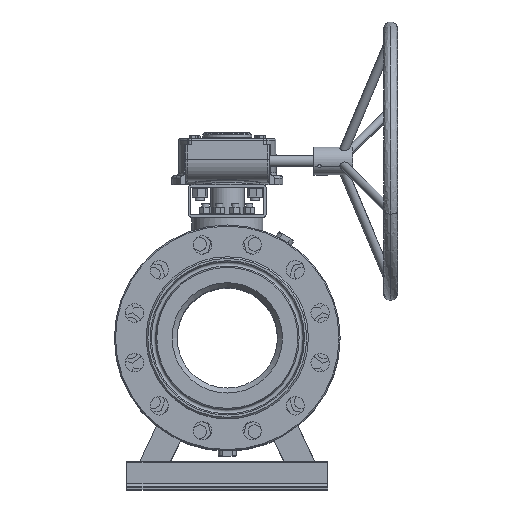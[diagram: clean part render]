
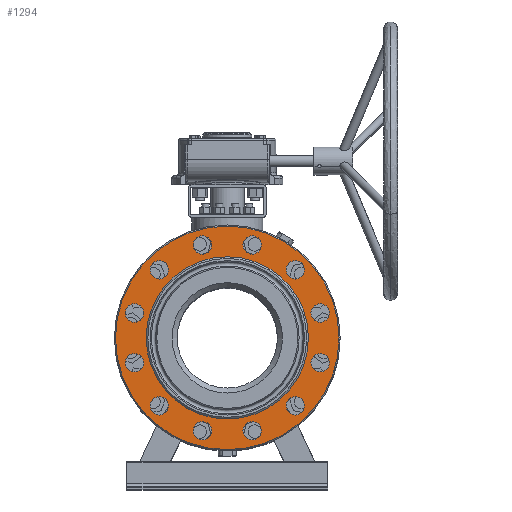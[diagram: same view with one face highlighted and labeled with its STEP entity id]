
A CAD part, top view. The second image highlights one B-rep face of the part: STEP entity #1294.
In plain terms, the highlighted planar face has unit normal (0, 0, 1).
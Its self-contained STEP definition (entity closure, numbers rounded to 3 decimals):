
#1294=ADVANCED_FACE('',(#13195,#13197,#13199,#13201,#13203,#13205,#13207,#13209,
#13211,#13213,#13215,#13217,#13219,#13221),#13223,.T.);
#13195=FACE_BOUND('',#13196,.T.);
#13196=EDGE_LOOP('',(#20094));
#13197=FACE_BOUND('',#13198,.T.);
#13198=EDGE_LOOP('',(#20095));
#13199=FACE_BOUND('',#13200,.T.);
#13200=EDGE_LOOP('',(#20096));
#13201=FACE_BOUND('',#13202,.T.);
#13202=EDGE_LOOP('',(#20097));
#13203=FACE_BOUND('',#13204,.T.);
#13204=EDGE_LOOP('',(#20098));
#13205=FACE_BOUND('',#13206,.T.);
#13206=EDGE_LOOP('',(#20099));
#13207=FACE_BOUND('',#13208,.T.);
#13208=EDGE_LOOP('',(#20100));
#13209=FACE_BOUND('',#13210,.T.);
#13210=EDGE_LOOP('',(#20101));
#13211=FACE_BOUND('',#13212,.T.);
#13212=EDGE_LOOP('',(#20102));
#13213=FACE_BOUND('',#13214,.T.);
#13214=EDGE_LOOP('',(#20103));
#13215=FACE_BOUND('',#13216,.T.);
#13216=EDGE_LOOP('',(#20104));
#13217=FACE_BOUND('',#13218,.T.);
#13218=EDGE_LOOP('',(#20105));
#13219=FACE_BOUND('',#13220,.T.);
#13220=EDGE_LOOP('',(#20106));
#13221=FACE_OUTER_BOUND('',#13222,.T.);
#13222=EDGE_LOOP('',(#20107));
#13223=PLANE('',#13224);
#13224=AXIS2_PLACEMENT_3D('',#13225,#13226,#13227);
#13225=CARTESIAN_POINT('',(0.,0.,296.));
#13226=DIRECTION('',(-0.,-0.,1.));
#13227=DIRECTION('',(0.,-1.,0.));
#20094=ORIENTED_EDGE('',*,*,#29461,.T.);
#20095=ORIENTED_EDGE('',*,*,#29451,.T.);
#20096=ORIENTED_EDGE('',*,*,#29449,.T.);
#20097=ORIENTED_EDGE('',*,*,#29447,.T.);
#20098=ORIENTED_EDGE('',*,*,#29445,.T.);
#20099=ORIENTED_EDGE('',*,*,#29443,.T.);
#20100=ORIENTED_EDGE('',*,*,#29441,.T.);
#20101=ORIENTED_EDGE('',*,*,#29439,.T.);
#20102=ORIENTED_EDGE('',*,*,#29437,.T.);
#20103=ORIENTED_EDGE('',*,*,#29435,.T.);
#20104=ORIENTED_EDGE('',*,*,#29433,.T.);
#20105=ORIENTED_EDGE('',*,*,#29431,.T.);
#20106=ORIENTED_EDGE('',*,*,#29429,.T.);
#20107=ORIENTED_EDGE('',*,*,#29462,.F.);
#29429=EDGE_CURVE('',#38147,#38147,#38149,.F.);
#29431=EDGE_CURVE('',#38150,#38150,#38152,.F.);
#29433=EDGE_CURVE('',#38153,#38153,#38155,.F.);
#29435=EDGE_CURVE('',#38156,#38156,#38158,.F.);
#29437=EDGE_CURVE('',#38159,#38159,#38161,.F.);
#29439=EDGE_CURVE('',#38162,#38162,#38164,.F.);
#29441=EDGE_CURVE('',#38165,#38165,#38167,.F.);
#29443=EDGE_CURVE('',#38168,#38168,#38170,.F.);
#29445=EDGE_CURVE('',#38171,#38171,#38173,.F.);
#29447=EDGE_CURVE('',#38174,#38174,#38176,.F.);
#29449=EDGE_CURVE('',#38177,#38177,#38179,.F.);
#29451=EDGE_CURVE('',#38180,#38180,#38182,.F.);
#29461=EDGE_CURVE('',#38198,#38198,#38199,.T.);
#29462=EDGE_CURVE('',#38200,#38200,#38201,.T.);
#38147=VERTEX_POINT('',#62532);
#38149=CIRCLE('',#62536,16.5);
#38150=VERTEX_POINT('',#62540);
#38152=CIRCLE('',#62544,16.5);
#38153=VERTEX_POINT('',#62548);
#38155=CIRCLE('',#62552,16.5);
#38156=VERTEX_POINT('',#62556);
#38158=CIRCLE('',#62560,16.5);
#38159=VERTEX_POINT('',#62564);
#38161=CIRCLE('',#62568,16.5);
#38162=VERTEX_POINT('',#62572);
#38164=CIRCLE('',#62576,16.5);
#38165=VERTEX_POINT('',#62580);
#38167=CIRCLE('',#62584,16.5);
#38168=VERTEX_POINT('',#62588);
#38170=CIRCLE('',#62592,16.5);
#38171=VERTEX_POINT('',#62596);
#38173=CIRCLE('',#62600,16.5);
#38174=VERTEX_POINT('',#62604);
#38176=CIRCLE('',#62608,16.5);
#38177=VERTEX_POINT('',#62612);
#38179=CIRCLE('',#62616,16.5);
#38180=VERTEX_POINT('',#62620);
#38182=CIRCLE('',#62624,16.5);
#38198=VERTEX_POINT('',#62743);
#38199=CIRCLE('',#62744,145.5);
#38200=VERTEX_POINT('',#62748);
#38201=CIRCLE('',#62749,200.5);
#62532=CARTESIAN_POINT('',(-113.726,136.265,296.));
#62536=AXIS2_PLACEMENT_3D('',#62537,#62538,#62539);
#62537=CARTESIAN_POINT('',(-121.976,121.976,296.));
#62538=DIRECTION('',(-0.,-0.,1.));
#62539=DIRECTION('',(0.5,0.866,0.));
#62540=CARTESIAN_POINT('',(-136.265,-113.726,296.));
#62544=AXIS2_PLACEMENT_3D('',#62545,#62546,#62547);
#62545=CARTESIAN_POINT('',(-121.976,-121.976,296.));
#62546=DIRECTION('',(-0.,-0.,1.));
#62547=DIRECTION('',(-0.866,0.5,-0.));
#62548=CARTESIAN_POINT('',(61.146,166.622,296.));
#62552=AXIS2_PLACEMENT_3D('',#62553,#62554,#62555);
#62553=CARTESIAN_POINT('',(44.646,166.622,296.));
#62554=DIRECTION('',(-0.,-0.,1.));
#62555=DIRECTION('',(1.,0.,0.));
#62556=CARTESIAN_POINT('',(-30.357,174.872,296.));
#62560=AXIS2_PLACEMENT_3D('',#62561,#62562,#62563);
#62561=CARTESIAN_POINT('',(-44.646,166.622,296.));
#62562=DIRECTION('',(-0.,-0.,1.));
#62563=DIRECTION('',(0.866,0.5,0.));
#62564=CARTESIAN_POINT('',(-166.622,61.146,296.));
#62568=AXIS2_PLACEMENT_3D('',#62569,#62570,#62571);
#62569=CARTESIAN_POINT('',(-166.622,44.646,296.));
#62570=DIRECTION('',(-0.,-0.,1.));
#62571=DIRECTION('',(0.,1.,0.));
#62572=CARTESIAN_POINT('',(-174.872,-30.357,296.));
#62576=AXIS2_PLACEMENT_3D('',#62577,#62578,#62579);
#62577=CARTESIAN_POINT('',(-166.622,-44.646,296.));
#62578=DIRECTION('',(-0.,-0.,1.));
#62579=DIRECTION('',(-0.5,0.866,-0.));
#62580=CARTESIAN_POINT('',(-61.146,-166.622,296.));
#62584=AXIS2_PLACEMENT_3D('',#62585,#62586,#62587);
#62585=CARTESIAN_POINT('',(-44.646,-166.622,296.));
#62586=DIRECTION('',(-0.,-0.,1.));
#62587=DIRECTION('',(-1.,-0.,0.));
#62588=CARTESIAN_POINT('',(30.357,-174.872,296.));
#62592=AXIS2_PLACEMENT_3D('',#62593,#62594,#62595);
#62593=CARTESIAN_POINT('',(44.646,-166.622,296.));
#62594=DIRECTION('',(-0.,-0.,1.));
#62595=DIRECTION('',(-0.866,-0.5,0.));
#62596=CARTESIAN_POINT('',(113.726,-136.265,296.));
#62600=AXIS2_PLACEMENT_3D('',#62601,#62602,#62603);
#62601=CARTESIAN_POINT('',(121.976,-121.976,296.));
#62602=DIRECTION('',(-0.,-0.,1.));
#62603=DIRECTION('',(-0.5,-0.866,0.));
#62604=CARTESIAN_POINT('',(166.622,-61.146,296.));
#62608=AXIS2_PLACEMENT_3D('',#62609,#62610,#62611);
#62609=CARTESIAN_POINT('',(166.622,-44.646,296.));
#62610=DIRECTION('',(-0.,-0.,1.));
#62611=DIRECTION('',(0.,-1.,0.));
#62612=CARTESIAN_POINT('',(174.872,30.357,296.));
#62616=AXIS2_PLACEMENT_3D('',#62617,#62618,#62619);
#62617=CARTESIAN_POINT('',(166.622,44.646,296.));
#62618=DIRECTION('',(-0.,-0.,1.));
#62619=DIRECTION('',(0.5,-0.866,0.));
#62620=CARTESIAN_POINT('',(136.265,113.726,296.));
#62624=AXIS2_PLACEMENT_3D('',#62625,#62626,#62627);
#62625=CARTESIAN_POINT('',(121.976,121.976,296.));
#62626=DIRECTION('',(-0.,-0.,1.));
#62627=DIRECTION('',(0.866,-0.5,0.));
#62743=CARTESIAN_POINT('',(0.,-145.5,296.));
#62744=AXIS2_PLACEMENT_3D('',#62745,#62746,#62747);
#62745=CARTESIAN_POINT('',(0.,0.,296.));
#62746=DIRECTION('',(0.,0.,-1.));
#62747=DIRECTION('',(0.,-1.,0.));
#62748=CARTESIAN_POINT('',(0.,-200.5,296.));
#62749=AXIS2_PLACEMENT_3D('',#62750,#62751,#62752);
#62750=CARTESIAN_POINT('',(0.,0.,296.));
#62751=DIRECTION('',(0.,0.,-1.));
#62752=DIRECTION('',(0.,-1.,0.));
